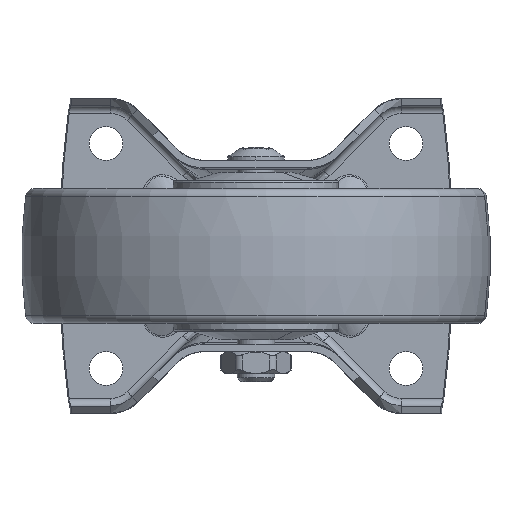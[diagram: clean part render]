
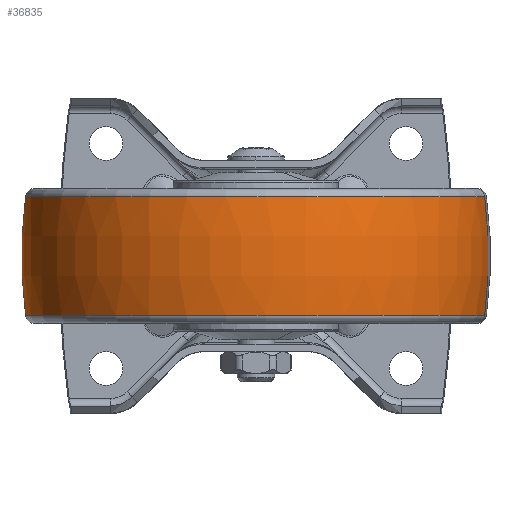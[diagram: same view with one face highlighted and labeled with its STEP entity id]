
A CAD part, front view. The second image highlights one B-rep face of the part: STEP entity #36835.
In plain terms, the highlighted toroidal (fillet/blend) face has major radius 62.5 mm and minor radius 125 mm.
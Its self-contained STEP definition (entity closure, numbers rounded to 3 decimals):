
#1932 = VERTEX_POINT ( 'NONE', #35355 ) ;
#1957 = EDGE_CURVE ( 'NONE', #36825, #36828, #35437, .T. ) ;
#1979 = ORIENTED_EDGE ( 'NONE', *, *, #1957, .T. ) ;
#1990 = VERTEX_POINT ( 'NONE', #35516 ) ;
#2006 = EDGE_CURVE ( 'NONE', #36825, #1990, #35551, .T. ) ;
#2007 = ORIENTED_EDGE ( 'NONE', *, *, #36837, .T. ) ;
#2011 = EDGE_CURVE ( 'NONE', #1990, #1932, #35622, .T. ) ;
#2023 = ORIENTED_EDGE ( 'NONE', *, *, #2011, .F. ) ;
#28550 = DIRECTION ( 'NONE',  ( 0.991, -0.131, 0. ) ) ;
#28551 = DIRECTION ( 'NONE',  ( 0., 0., -1. ) ) ;
#28552 = CARTESIAN_POINT ( 'NONE',  ( 66.155, -51.505, -1.392 ) ) ;
#28555 = TOROIDAL_SURFACE ( 'NONE', #28560, -62.5, 125. ) ;
#28559 = CARTESIAN_POINT ( 'NONE',  ( 4.191, -43.34, -1.392 ) ) ;
#28560 = AXIS2_PLACEMENT_3D ( 'NONE', #28559, #28551, #28550 ) ;
#28561 = CARTESIAN_POINT ( 'NONE',  ( -56.777, -35.306, 14.424 ) ) ;
#28571 = CARTESIAN_POINT ( 'NONE',  ( 65.159, -51.374, 14.424 ) ) ;
#28616 = DIRECTION ( 'NONE',  ( -0.131, -0.991, 0. ) ) ;
#28618 = FACE_OUTER_BOUND ( 'NONE', #36717, .T. ) ;
#28693 = DIRECTION ( 'NONE',  ( 0.991, -0.131, 0. ) ) ;
#28694 = AXIS2_PLACEMENT_3D ( 'NONE', #28552, #28616, #28693 ) ;
#28695 = CIRCLE ( 'NONE', #28694, 125. ) ;
#35355 = CARTESIAN_POINT ( 'NONE',  ( -56.777, -35.306, -17.208 ) ) ;
#35437 = CIRCLE ( 'NONE', #35475, 61.495 ) ;
#35472 = DIRECTION ( 'NONE',  ( 0.991, -0.131, 0. ) ) ;
#35473 = DIRECTION ( 'NONE',  ( 0., 0., -1. ) ) ;
#35474 = CARTESIAN_POINT ( 'NONE',  ( 4.191, -43.34, 14.424 ) ) ;
#35475 = AXIS2_PLACEMENT_3D ( 'NONE', #35474, #35473, #35472 ) ;
#35516 = CARTESIAN_POINT ( 'NONE',  ( 65.159, -51.374, -17.208 ) ) ;
#35529 = AXIS2_PLACEMENT_3D ( 'NONE', #35577, #35576, #35575 ) ;
#35534 = AXIS2_PLACEMENT_3D ( 'NONE', #35574, #35614, #35613 ) ;
#35551 = CIRCLE ( 'NONE', #35529, 125. ) ;
#35574 = CARTESIAN_POINT ( 'NONE',  ( 4.191, -43.34, -17.208 ) ) ;
#35575 = DIRECTION ( 'NONE',  ( -0.991, 0.131, 0. ) ) ;
#35576 = DIRECTION ( 'NONE',  ( 0.131, 0.991, 0. ) ) ;
#35577 = CARTESIAN_POINT ( 'NONE',  ( -57.773, -35.175, -1.392 ) ) ;
#35613 = DIRECTION ( 'NONE',  ( 0.991, -0.131, 0. ) ) ;
#35614 = DIRECTION ( 'NONE',  ( 0., 0., -1. ) ) ;
#35622 = CIRCLE ( 'NONE', #35534, 61.495 ) ;
#36717 = EDGE_LOOP ( 'NONE', ( #1979, #2007, #2023, #36788 ) ) ;
#36788 = ORIENTED_EDGE ( 'NONE', *, *, #2006, .F. ) ;
#36825 = VERTEX_POINT ( 'NONE', #28571 ) ;
#36828 = VERTEX_POINT ( 'NONE', #28561 ) ;
#36835 = ADVANCED_FACE ( 'NONE', ( #28618 ), #28555, .T. ) ;
#36837 = EDGE_CURVE ( 'NONE', #36828, #1932, #28695, .T. ) ;
